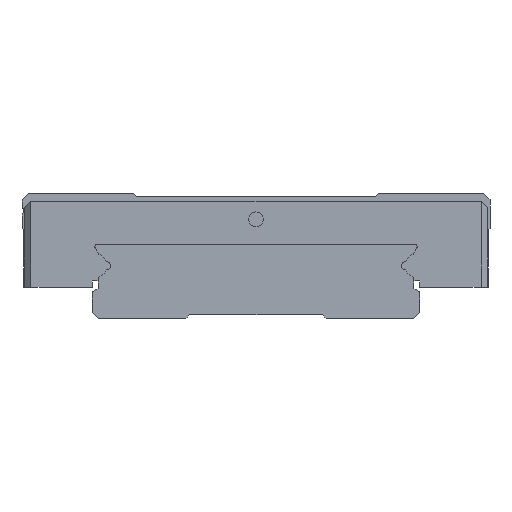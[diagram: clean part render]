
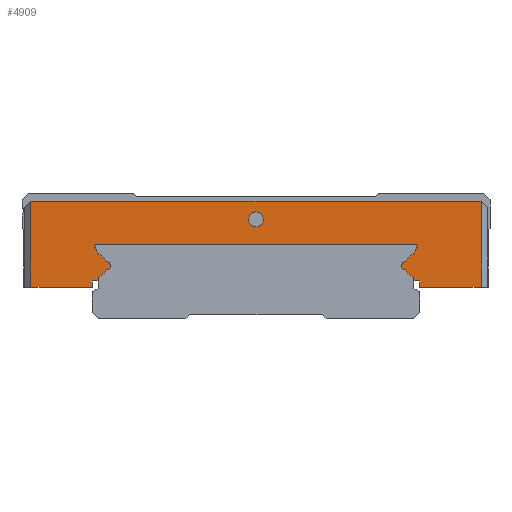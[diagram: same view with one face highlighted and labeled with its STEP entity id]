
A CAD part, left-side view. The second image highlights one B-rep face of the part: STEP entity #4909.
In plain terms, the highlighted planar face has unit normal (-1, 0, 0).
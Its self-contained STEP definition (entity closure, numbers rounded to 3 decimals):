
#2807=CARTESIAN_POINT('',(0.0,28.85,15.));
#2808=VERTEX_POINT('',#2807);
#2815=CARTESIAN_POINT('',(0.0,-28.85,15.));
#2816=VERTEX_POINT('',#2815);
#2817=CARTESIAN_POINT('',(0.0,-28.85,15.));
#2818=DIRECTION('',(0.0,1.0,0.0));
#2819=VECTOR('',#2818,57.7);
#2820=LINE('',#2817,#2819);
#2821=EDGE_CURVE('',#2816,#2808,#2820,.T.);
#3161=CARTESIAN_POINT('',(0.0,0.95,12.7));
#3162=VERTEX_POINT('',#3161);
#3163=CARTESIAN_POINT('',(0.0,0.0,12.7));
#3164=DIRECTION('',(1.0,0.0,0.0));
#3165=DIRECTION('',(0.0,-1.0,0.0));
#3166=AXIS2_PLACEMENT_3D('',#3163,#3164,#3165);
#3167=CIRCLE('',#3166,0.95);
#3168=EDGE_CURVE('',#3162,#3162,#3167,.T.);
#4143=CARTESIAN_POINT('',(0.0,-28.85,4.));
#4144=VERTEX_POINT('',#4143);
#4145=CARTESIAN_POINT('',(0.0,-28.85,4.));
#4146=DIRECTION('',(0.0,0.0,1.0));
#4147=VECTOR('',#4146,11.);
#4148=LINE('',#4145,#4147);
#4149=EDGE_CURVE('',#4144,#2816,#4148,.T.);
#4190=CARTESIAN_POINT('',(0.0,28.85,4.));
#4191=VERTEX_POINT('',#4190);
#4198=CARTESIAN_POINT('',(0.0,28.85,15.));
#4199=DIRECTION('',(0.0,0.0,-1.0));
#4200=VECTOR('',#4199,11.);
#4201=LINE('',#4198,#4200);
#4202=EDGE_CURVE('',#2808,#4191,#4201,.T.);
#4239=CARTESIAN_POINT('',(0.0,-21.,4.));
#4240=VERTEX_POINT('',#4239);
#4241=CARTESIAN_POINT('',(0.0,-21.,4.));
#4242=DIRECTION('',(0.0,-1.0,0.0));
#4243=VECTOR('',#4242,7.85);
#4244=LINE('',#4241,#4243);
#4245=EDGE_CURVE('',#4240,#4144,#4244,.T.);
#4286=CARTESIAN_POINT('',(0.0,21.,4.));
#4287=VERTEX_POINT('',#4286);
#4294=CARTESIAN_POINT('',(0.0,28.85,4.));
#4295=DIRECTION('',(0.0,-1.0,0.0));
#4296=VECTOR('',#4295,7.85);
#4297=LINE('',#4294,#4296);
#4298=EDGE_CURVE('',#4191,#4287,#4297,.T.);
#4323=CARTESIAN_POINT('',(0.0,21.,4.8));
#4324=VERTEX_POINT('',#4323);
#4331=CARTESIAN_POINT('',(0.0,21.,4.));
#4332=DIRECTION('',(0.0,0.0,1.0));
#4333=VECTOR('',#4332,0.8);
#4334=LINE('',#4331,#4333);
#4335=EDGE_CURVE('',#4287,#4324,#4334,.T.);
#4354=CARTESIAN_POINT('',(0.0,20.25,4.8));
#4355=VERTEX_POINT('',#4354);
#4362=CARTESIAN_POINT('',(0.0,21.,4.8));
#4363=DIRECTION('',(0.0,-1.0,0.0));
#4364=VECTOR('',#4363,0.75);
#4365=LINE('',#4362,#4364);
#4366=EDGE_CURVE('',#4324,#4355,#4365,.T.);
#4385=CARTESIAN_POINT('',(0.0,20.25,5.23));
#4386=VERTEX_POINT('',#4385);
#4393=CARTESIAN_POINT('',(0.0,20.25,4.8));
#4394=DIRECTION('',(0.0,0.,1.0));
#4395=VECTOR('',#4394,0.43);
#4396=LINE('',#4393,#4395);
#4397=EDGE_CURVE('',#4355,#4386,#4396,.T.);
#4417=CARTESIAN_POINT('',(0.0,19.228,6.256));
#4418=VERTEX_POINT('',#4417);
#4425=CARTESIAN_POINT('',(0.0,20.75,6.75));
#4426=DIRECTION('',(-1.,0.0,0.0));
#4427=DIRECTION('',(0.0,0.951,0.309));
#4428=AXIS2_PLACEMENT_3D('',#4425,#4426,#4427);
#4429=CIRCLE('',#4428,1.6);
#4430=EDGE_CURVE('',#4386,#4418,#4429,.T.);
#4450=CARTESIAN_POINT('',(0.0,19.228,7.244));
#4451=VERTEX_POINT('',#4450);
#4458=CARTESIAN_POINT('',(0.0,19.15,6.75));
#4459=DIRECTION('',(-1.0,0.0,0.0));
#4460=DIRECTION('',(0.0,-0.156,-0.988));
#4461=AXIS2_PLACEMENT_3D('',#4458,#4459,#4460);
#4462=CIRCLE('',#4461,0.5);
#4463=EDGE_CURVE('',#4418,#4451,#4462,.T.);
#4483=CARTESIAN_POINT('',(0.0,20.159,8.237));
#4484=VERTEX_POINT('',#4483);
#4491=CARTESIAN_POINT('',(0.0,20.75,6.75));
#4492=DIRECTION('',(-1.,0.0,0.0));
#4493=DIRECTION('',(0.0,0.37,-0.929));
#4494=AXIS2_PLACEMENT_3D('',#4491,#4492,#4493);
#4495=CIRCLE('',#4494,1.6);
#4496=EDGE_CURVE('',#4451,#4484,#4495,.T.);
#4515=CARTESIAN_POINT('',(0.0,20.628,9.05));
#4516=VERTEX_POINT('',#4515);
#4523=CARTESIAN_POINT('',(0.0,20.159,8.237));
#4524=DIRECTION('',(0.0,0.5,0.866));
#4525=VECTOR('',#4524,0.939);
#4526=LINE('',#4523,#4525);
#4527=EDGE_CURVE('',#4484,#4516,#4526,.T.);
#4547=CARTESIAN_POINT('',(0.0,20.369,9.5));
#4548=VERTEX_POINT('',#4547);
#4555=CARTESIAN_POINT('',(0.0,20.369,9.2));
#4556=DIRECTION('',(1.,0.0,0.0));
#4557=DIRECTION('',(0.0,0.866,-0.5));
#4558=AXIS2_PLACEMENT_3D('',#4555,#4556,#4557);
#4559=CIRCLE('',#4558,0.3);
#4560=EDGE_CURVE('',#4516,#4548,#4559,.T.);
#4579=CARTESIAN_POINT('',(0.0,-20.369,9.5));
#4580=VERTEX_POINT('',#4579);
#4587=CARTESIAN_POINT('',(0.0,20.369,9.5));
#4588=DIRECTION('',(0.0,-1.0,0.0));
#4589=VECTOR('',#4588,40.737);
#4590=LINE('',#4587,#4589);
#4591=EDGE_CURVE('',#4548,#4580,#4590,.T.);
#4611=CARTESIAN_POINT('',(0.0,-20.628,9.05));
#4612=VERTEX_POINT('',#4611);
#4619=CARTESIAN_POINT('',(0.0,-20.369,9.2));
#4620=DIRECTION('',(1.0,0.0,0.0));
#4621=DIRECTION('',(0.0,0.0,1.0));
#4622=AXIS2_PLACEMENT_3D('',#4619,#4620,#4621);
#4623=CIRCLE('',#4622,0.3);
#4624=EDGE_CURVE('',#4580,#4612,#4623,.T.);
#4643=CARTESIAN_POINT('',(0.0,-20.159,8.237));
#4644=VERTEX_POINT('',#4643);
#4651=CARTESIAN_POINT('',(0.0,-20.628,9.05));
#4652=DIRECTION('',(0.0,0.5,-0.866));
#4653=VECTOR('',#4652,0.939);
#4654=LINE('',#4651,#4653);
#4655=EDGE_CURVE('',#4612,#4644,#4654,.T.);
#4675=CARTESIAN_POINT('',(0.0,-19.228,7.244));
#4676=VERTEX_POINT('',#4675);
#4683=CARTESIAN_POINT('',(0.0,-20.75,6.75));
#4684=DIRECTION('',(-1.0,0.0,0.0));
#4685=DIRECTION('',(0.0,-0.951,-0.309));
#4686=AXIS2_PLACEMENT_3D('',#4683,#4684,#4685);
#4687=CIRCLE('',#4686,1.6);
#4688=EDGE_CURVE('',#4644,#4676,#4687,.T.);
#4708=CARTESIAN_POINT('',(0.0,-19.228,6.256));
#4709=VERTEX_POINT('',#4708);
#4716=CARTESIAN_POINT('',(0.0,-19.15,6.75));
#4717=DIRECTION('',(-1.0,0.0,0.0));
#4718=DIRECTION('',(0.0,0.156,0.988));
#4719=AXIS2_PLACEMENT_3D('',#4716,#4717,#4718);
#4720=CIRCLE('',#4719,0.5);
#4721=EDGE_CURVE('',#4676,#4709,#4720,.T.);
#4741=CARTESIAN_POINT('',(0.0,-20.25,5.23));
#4742=VERTEX_POINT('',#4741);
#4749=CARTESIAN_POINT('',(0.0,-20.75,6.75));
#4750=DIRECTION('',(-1.,0.0,0.0));
#4751=DIRECTION('',(0.0,-0.313,0.95));
#4752=AXIS2_PLACEMENT_3D('',#4749,#4750,#4751);
#4753=CIRCLE('',#4752,1.6);
#4754=EDGE_CURVE('',#4709,#4742,#4753,.T.);
#4773=CARTESIAN_POINT('',(0.0,-20.25,4.8));
#4774=VERTEX_POINT('',#4773);
#4781=CARTESIAN_POINT('',(0.0,-20.25,5.23));
#4782=DIRECTION('',(0.0,0.,-1.0));
#4783=VECTOR('',#4782,0.43);
#4784=LINE('',#4781,#4783);
#4785=EDGE_CURVE('',#4742,#4774,#4784,.T.);
#4804=CARTESIAN_POINT('',(0.0,-21.,4.8));
#4805=VERTEX_POINT('',#4804);
#4812=CARTESIAN_POINT('',(0.0,-20.25,4.8));
#4813=DIRECTION('',(0.0,-1.0,0.0));
#4814=VECTOR('',#4813,0.75);
#4815=LINE('',#4812,#4814);
#4816=EDGE_CURVE('',#4774,#4805,#4815,.T.);
#4834=CARTESIAN_POINT('',(0.0,-21.,4.8));
#4835=DIRECTION('',(0.0,0.0,-1.0));
#4836=VECTOR('',#4835,0.8);
#4837=LINE('',#4834,#4836);
#4838=EDGE_CURVE('',#4805,#4240,#4837,.T.);
#4877=CARTESIAN_POINT('',(0.0,0.,10.709));
#4878=DIRECTION('',(1.0,0.0,0.0));
#4879=DIRECTION('',(0.0,0.0,-1.0));
#4880=AXIS2_PLACEMENT_3D('',#4877,#4878,#4879);
#4881=PLANE('',#4880);
#4882=ORIENTED_EDGE('',*,*,#4838,.T.);
#4883=ORIENTED_EDGE('',*,*,#4245,.T.);
#4884=ORIENTED_EDGE('',*,*,#4149,.T.);
#4885=ORIENTED_EDGE('',*,*,#2821,.T.);
#4886=ORIENTED_EDGE('',*,*,#4202,.T.);
#4887=ORIENTED_EDGE('',*,*,#4298,.T.);
#4888=ORIENTED_EDGE('',*,*,#4335,.T.);
#4889=ORIENTED_EDGE('',*,*,#4366,.T.);
#4890=ORIENTED_EDGE('',*,*,#4397,.T.);
#4891=ORIENTED_EDGE('',*,*,#4430,.T.);
#4892=ORIENTED_EDGE('',*,*,#4463,.T.);
#4893=ORIENTED_EDGE('',*,*,#4496,.T.);
#4894=ORIENTED_EDGE('',*,*,#4527,.T.);
#4895=ORIENTED_EDGE('',*,*,#4560,.T.);
#4896=ORIENTED_EDGE('',*,*,#4591,.T.);
#4897=ORIENTED_EDGE('',*,*,#4624,.T.);
#4898=ORIENTED_EDGE('',*,*,#4655,.T.);
#4899=ORIENTED_EDGE('',*,*,#4688,.T.);
#4900=ORIENTED_EDGE('',*,*,#4721,.T.);
#4901=ORIENTED_EDGE('',*,*,#4754,.T.);
#4902=ORIENTED_EDGE('',*,*,#4785,.T.);
#4903=ORIENTED_EDGE('',*,*,#4816,.T.);
#4904=EDGE_LOOP('',(#4882,#4883,#4884,#4885,#4886,#4887,#4888,#4889,#4890,#4891,#4892,#4893,#4894,#4895,#4896,#4897,#4898,#4899,#4900,#4901,#4902,#4903));
#4905=FACE_OUTER_BOUND('',#4904,.T.);
#4906=ORIENTED_EDGE('',*,*,#3168,.T.);
#4907=EDGE_LOOP('',(#4906));
#4908=FACE_BOUND('',#4907,.T.);
#4909=ADVANCED_FACE('',(#4905,#4908),#4881,.F.);
